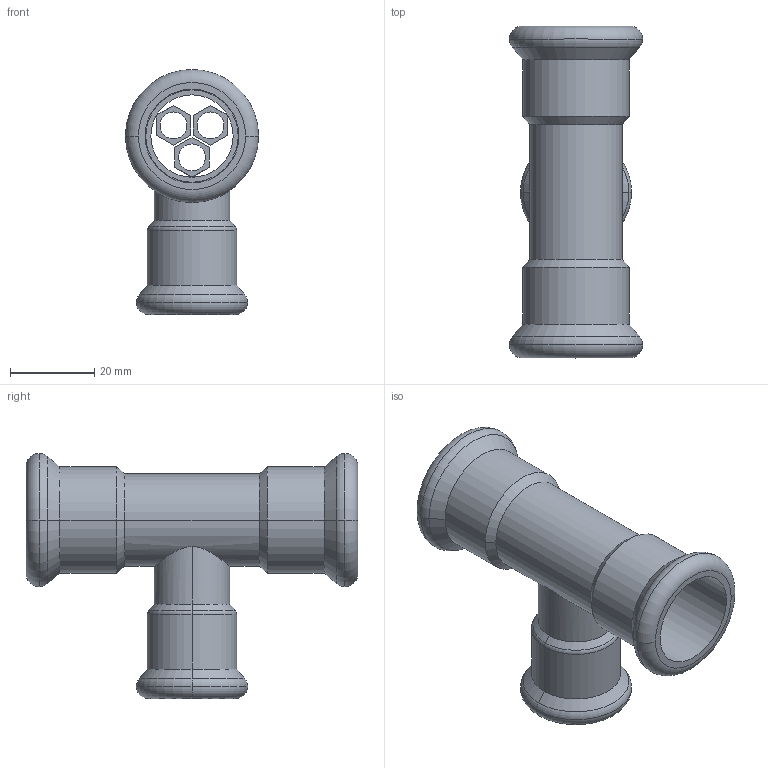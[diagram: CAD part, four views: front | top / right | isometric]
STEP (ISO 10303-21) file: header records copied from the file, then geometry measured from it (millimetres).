
FILE_DESCRIPTION(('OneSpaceDesigner STEP Export'),'2;1');
FILE_NAME('R2715 22x18x22.stp','2010-06-10T 8:57:26',(''),(''),'OneSpace Designer STEP processor for AP214 (Solid Model)','OneSpace Modeling 15.00A 14-Mar-2007 (C) CoCreate Software GmbH','');
FILE_SCHEMA(('AUTOMOTIVE_DESIGN { 1 0 10303 214 1 1 1 1 }'));
Length unit declared in the file: millimetre
Products named in the file (2): R2715_22x18x22
Assembly tree (1 placements, depth 2):
  R2715_22x18x22
    R2715_22x18x22
Bounding box: 31.7 x 79 x 58.35 mm (x, y, z)
Volume: 15078.8 mm3; surface area: 18100.3 mm2
Topology: 1 solids, 1 shells, 170 faces, 421 edges, 270 vertices
Faces by surface type: plane 90, cylinder 54, torus 14, cone 12
Entity records: 5671 total; most frequent: CARTESIAN_POINT 1858, ORIENTED_EDGE 842, DIRECTION 691, EDGE_CURVE 421, VERTEX_POINT 270, VECTOR 263, LINE 263, AXIS2_PLACEMENT_3D 214
